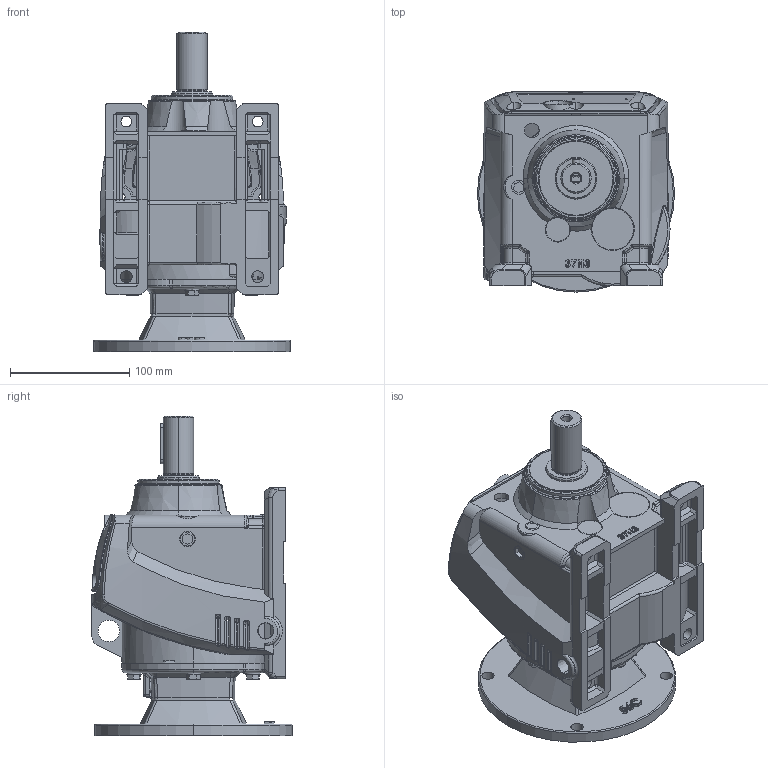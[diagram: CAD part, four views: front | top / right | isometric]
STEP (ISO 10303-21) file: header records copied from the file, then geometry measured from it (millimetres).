
FILE_DESCRIPTION (( 'STEP AP203' ), '1' );
FILE_NAME ('WINL37-56C.STEP', '2013-09-26T09:06:57', ( 'User' ), ( 'Chenta' ), 'SwSTEP 2.0', 'SolidWorks 2011', '' );
FILE_SCHEMA (( 'CONFIG_CONTROL_DESIGN' ));
Length unit declared in the file: millimetre
Products named in the file (1): WINL37-56C
Bounding box: 165.1 x 167.55 x 268 mm (x, y, z)
Surface area: 255490.8 mm2 (no closed solid volume)
Topology: 0 solids, 30 shells, 1135 faces, 3336 edges, 2175 vertices
Faces by surface type: plane 390, cylinder 279, bspline 275, cone 100, torus 49, sphere 42
Entity records: 52248 total; most frequent: CARTESIAN_POINT 24878, ORIENTED_EDGE 5972, DIRECTION 4889, EDGE_CURVE 3305, VERTEX_POINT 2175, AXIS2_PLACEMENT_3D 1761, LINE 1367, VECTOR 1367
